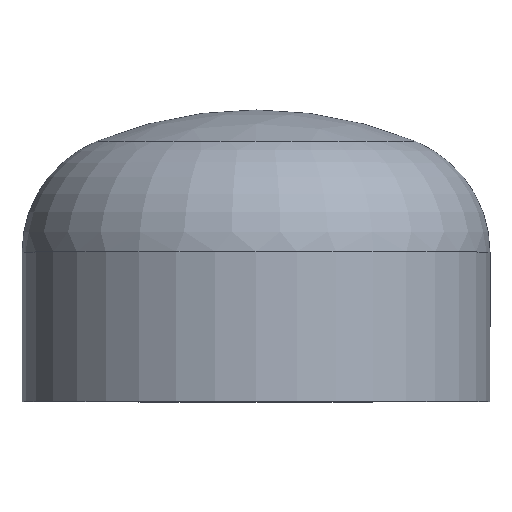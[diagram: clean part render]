
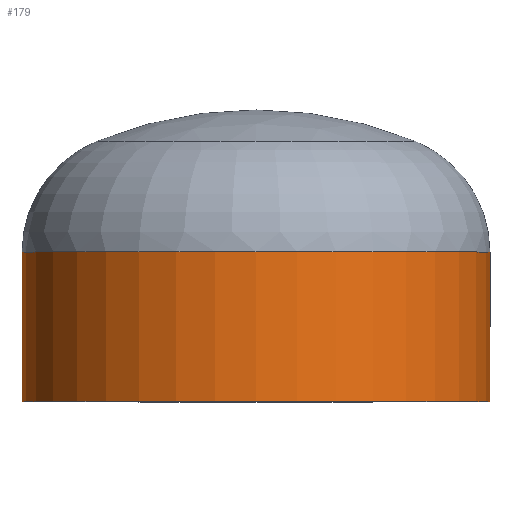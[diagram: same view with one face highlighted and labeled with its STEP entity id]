
A CAD part, top view. The second image highlights one B-rep face of the part: STEP entity #179.
In plain terms, the highlighted cylindrical face has radius 109.55 mm (diameter 219.1 mm), a partial arc.
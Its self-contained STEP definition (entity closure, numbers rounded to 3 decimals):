
#18 = AXIS2_PLACEMENT_3D ( 'NONE', #97, #145, #148 ) ;
#31 = ORIENTED_EDGE ( 'NONE', *, *, #388, .F. ) ;
#50 = VERTEX_POINT ( 'NONE', #293 ) ;
#63 = AXIS2_PLACEMENT_3D ( 'NONE', #72, #190, #191 ) ;
#71 = AXIS2_PLACEMENT_3D ( 'NONE', #227, #214, #76 ) ;
#72 = CARTESIAN_POINT ( 'NONE',  ( 0., 70., 0. ) ) ;
#76 = DIRECTION ( 'NONE',  ( 1., 0., 0. ) ) ;
#79 = VERTEX_POINT ( 'NONE', #260 ) ;
#92 = VERTEX_POINT ( 'NONE', #252 ) ;
#97 = CARTESIAN_POINT ( 'NONE',  ( 0., 0., 0. ) ) ;
#102 = ORIENTED_EDGE ( 'NONE', *, *, #136, .T. ) ;
#121 = ORIENTED_EDGE ( 'NONE', *, *, #230, .T. ) ;
#136 = EDGE_CURVE ( 'NONE', #50, #92, #183, .T. ) ;
#137 = ORIENTED_EDGE ( 'NONE', *, *, #360, .F. ) ;
#144 = VERTEX_POINT ( 'NONE', #314 ) ;
#145 = DIRECTION ( 'NONE',  ( 0., -1., 0. ) ) ;
#148 = DIRECTION ( 'NONE',  ( 1., 0., 0. ) ) ;
#176 = VECTOR ( 'NONE', #184, 1000. ) ;
#179 = ADVANCED_FACE ( 'NONE', ( #282 ), #279, .T. ) ;
#183 = LINE ( 'NONE', #333, #366 ) ;
#184 = DIRECTION ( 'NONE',  ( 0., -1., 0. ) ) ;
#190 = DIRECTION ( 'NONE',  ( 0., -1., 0. ) ) ;
#191 = DIRECTION ( 'NONE',  ( 1., 0., 0. ) ) ;
#214 = DIRECTION ( 'NONE',  ( 0., -1., 0. ) ) ;
#227 = CARTESIAN_POINT ( 'NONE',  ( 0., 0., 0. ) ) ;
#230 = EDGE_CURVE ( 'NONE', #79, #50, #334, .T. ) ;
#252 = CARTESIAN_POINT ( 'NONE',  ( -109.55, 0., 0. ) ) ;
#260 = CARTESIAN_POINT ( 'NONE',  ( 109.55, 70., 0. ) ) ;
#279 = CYLINDRICAL_SURFACE ( 'NONE', #71, 109.55 ) ;
#282 = FACE_OUTER_BOUND ( 'NONE', #385, .T. ) ;
#291 = CARTESIAN_POINT ( 'NONE',  ( 109.55, 0., 0. ) ) ;
#293 = CARTESIAN_POINT ( 'NONE',  ( -109.55, 70., 0. ) ) ;
#303 = LINE ( 'NONE', #291, #176 ) ;
#314 = CARTESIAN_POINT ( 'NONE',  ( 109.55, 0., 0. ) ) ;
#333 = CARTESIAN_POINT ( 'NONE',  ( -109.55, 0., 0. ) ) ;
#334 = CIRCLE ( 'NONE', #63, 109.55 ) ;
#335 = DIRECTION ( 'NONE',  ( 0., -1., 0. ) ) ;
#360 = EDGE_CURVE ( 'NONE', #144, #92, #381, .T. ) ;
#366 = VECTOR ( 'NONE', #335, 1000. ) ;
#381 = CIRCLE ( 'NONE', #18, 109.55 ) ;
#385 = EDGE_LOOP ( 'NONE', ( #121, #102, #137, #31 ) ) ;
#388 = EDGE_CURVE ( 'NONE', #79, #144, #303, .T. ) ;
